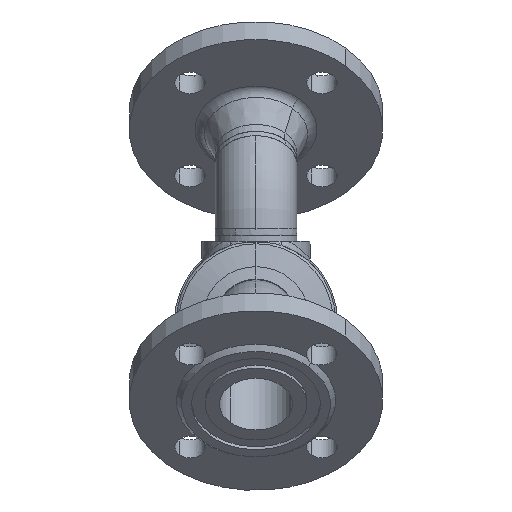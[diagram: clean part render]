
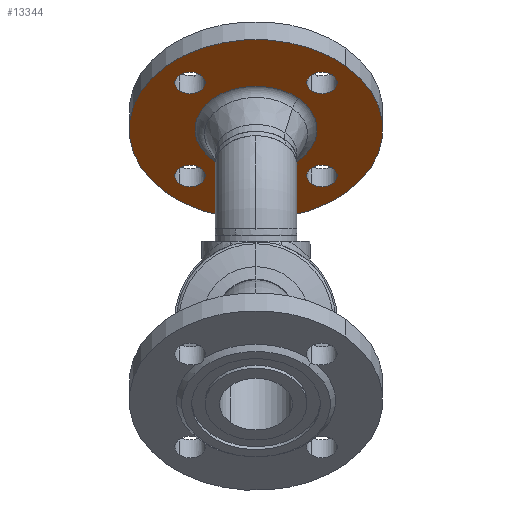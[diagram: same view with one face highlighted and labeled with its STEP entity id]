
A CAD part, front view. The second image highlights one B-rep face of the part: STEP entity #13344.
In plain terms, the highlighted planar face has unit normal (0, -0.707, -0.707) as drawn and (0, 1, 0) by its records, which use the part's own axes.
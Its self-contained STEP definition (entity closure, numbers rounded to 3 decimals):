
#16821 = VERTEX_POINT ( 'NONE', #47112 ) ;
#17226 = EDGE_LOOP ( 'NONE', ( #44420, #31367 ) ) ;
#33872 = VERTEX_POINT ( 'NONE', #48704 ) ;
#1157 = EDGE_CURVE ( 'NONE', #12079, #15108, #38039, .T. ) ;
#17882 = ORIENTED_EDGE ( 'NONE', *, *, #40357, .F. ) ;
#50857 = VERTEX_POINT ( 'NONE', #24444 ) ;
#18336 = ORIENTED_EDGE ( 'NONE', *, *, #1157, .F. ) ;
#51460 = EDGE_CURVE ( 'NONE', #9504, #50857, #24851, .T. ) ;
#51901 = CARTESIAN_POINT ( 'NONE',  ( -75., 18., 0. ) ) ;
#3008 = ORIENTED_EDGE ( 'NONE', *, *, #20402, .T. ) ;
#52301 = CIRCLE ( 'NONE', #52302, 75. ) ;
#52302 = AXIS2_PLACEMENT_3D ( 'NONE', #52303, #52304, #52305 ) ;
#52303 = CARTESIAN_POINT ( 'NONE',  ( 0., 18., 0. ) ) ;
#52304 = DIRECTION ( 'NONE',  ( 0., 1., 0. ) ) ;
#52305 = DIRECTION ( 'NONE',  ( -1., 0., 0. ) ) ;
#52518 = EDGE_LOOP ( 'NONE', ( #23249, #17882 ) ) ;
#19798 = VERTEX_POINT ( 'NONE', #51901 ) ;
#3515 = EDGE_CURVE ( 'NONE', #22842, #19798, #41238, .T. ) ;
#36450 = CARTESIAN_POINT ( 'NONE',  ( 36.091, 18., 0. ) ) ;
#53166 = ORIENTED_EDGE ( 'NONE', *, *, #12682, .F. ) ;
#20402 = EDGE_CURVE ( 'NONE', #19798, #22842, #52301, .T. ) ;
#53270 = EDGE_LOOP ( 'NONE', ( #3008, #27129 ) ) ;
#4371 = VERTEX_POINT ( 'NONE', #43567 ) ;
#4812 = ORIENTED_EDGE ( 'NONE', *, *, #47358, .F. ) ;
#21262 = CIRCLE ( 'NONE', #21263, 9. ) ;
#21263 = AXIS2_PLACEMENT_3D ( 'NONE', #21264, #21265, #21266 ) ;
#21264 = CARTESIAN_POINT ( 'NONE',  ( 0., 18., -55. ) ) ;
#21265 = DIRECTION ( 'NONE',  ( 0., 1., 0. ) ) ;
#21266 = DIRECTION ( 'NONE',  ( 0., 0., 1. ) ) ;
#37758 = ORIENTED_EDGE ( 'NONE', *, *, #51460, .F. ) ;
#38039 = CIRCLE ( 'NONE', #38090, 9. ) ;
#5317 = VERTEX_POINT ( 'NONE', #44699 ) ;
#38090 = AXIS2_PLACEMENT_3D ( 'NONE', #38091, #38092, #38093 ) ;
#38091 = CARTESIAN_POINT ( 'NONE',  ( -55., 18., 0. ) ) ;
#38092 = DIRECTION ( 'NONE',  ( 0., 1., 0. ) ) ;
#38093 = DIRECTION ( 'NONE',  ( 1., 0., 0. ) ) ;
#5920 = EDGE_CURVE ( 'NONE', #16821, #5317, #46836, .T. ) ;
#6140 = CIRCLE ( 'NONE', #6141, 9. ) ;
#6141 = AXIS2_PLACEMENT_3D ( 'NONE', #6142, #6143, #6144 ) ;
#6142 = CARTESIAN_POINT ( 'NONE',  ( 0., 18., -55. ) ) ;
#6143 = DIRECTION ( 'NONE',  ( 0., 1., 0. ) ) ;
#6144 = DIRECTION ( 'NONE',  ( 0., 0., 1. ) ) ;
#6398 = CARTESIAN_POINT ( 'NONE',  ( 9., 18., 55. ) ) ;
#22842 = VERTEX_POINT ( 'NONE', #24991 ) ;
#22892 = EDGE_CURVE ( 'NONE', #39561, #46822, #24992, .T. ) ;
#6799 = CIRCLE ( 'NONE', #6800, 36.091 ) ;
#6800 = AXIS2_PLACEMENT_3D ( 'NONE', #6801, #6802, #6803 ) ;
#39561 = VERTEX_POINT ( 'NONE', #41720 ) ;
#6801 = CARTESIAN_POINT ( 'NONE',  ( 0., 18., 0. ) ) ;
#6802 = DIRECTION ( 'NONE',  ( 0., 1., 0. ) ) ;
#6803 = DIRECTION ( 'NONE',  ( -1., 0., 0. ) ) ;
#23249 = ORIENTED_EDGE ( 'NONE', *, *, #22892, .F. ) ;
#40187 = CARTESIAN_POINT ( 'NONE',  ( -64., 18., 0. ) ) ;
#40357 = EDGE_CURVE ( 'NONE', #46822, #39561, #42383, .T. ) ;
#24444 = CARTESIAN_POINT ( 'NONE',  ( -36.091, 18., 0. ) ) ;
#24454 = EDGE_LOOP ( 'NONE', ( #18336, #53166 ) ) ;
#8239 = EDGE_CURVE ( 'NONE', #4371, #33872, #21262, .T. ) ;
#24851 = CIRCLE ( 'NONE', #24852, 36.091 ) ;
#24852 = AXIS2_PLACEMENT_3D ( 'NONE', #24853, #24854, #24855 ) ;
#24853 = CARTESIAN_POINT ( 'NONE',  ( 0., 18., 0. ) ) ;
#24854 = DIRECTION ( 'NONE',  ( 0., 1., 0. ) ) ;
#24855 = DIRECTION ( 'NONE',  ( -1., 0., 0. ) ) ;
#41238 = CIRCLE ( 'NONE', #41290, 75. ) ;
#41250 = CIRCLE ( 'NONE', #41251, 9. ) ;
#41251 = AXIS2_PLACEMENT_3D ( 'NONE', #41252, #41253, #41254 ) ;
#41252 = CARTESIAN_POINT ( 'NONE',  ( -55., 18., 0. ) ) ;
#41253 = DIRECTION ( 'NONE',  ( 0., 1., 0. ) ) ;
#41254 = DIRECTION ( 'NONE',  ( 1., 0., 0. ) ) ;
#41290 = AXIS2_PLACEMENT_3D ( 'NONE', #41291, #41292, #41293 ) ;
#41291 = CARTESIAN_POINT ( 'NONE',  ( 0., 18., 0. ) ) ;
#41292 = DIRECTION ( 'NONE',  ( 0., 1., 0. ) ) ;
#41293 = DIRECTION ( 'NONE',  ( -1., 0., 0. ) ) ;
#24991 = CARTESIAN_POINT ( 'NONE',  ( 75., 18., 0. ) ) ;
#24992 = CIRCLE ( 'NONE', #24993, 9. ) ;
#24993 = AXIS2_PLACEMENT_3D ( 'NONE', #24994, #24995, #24996 ) ;
#24994 = CARTESIAN_POINT ( 'NONE',  ( 0., 18., 55. ) ) ;
#24995 = DIRECTION ( 'NONE',  ( 0., 1., 0. ) ) ;
#24996 = DIRECTION ( 'NONE',  ( 0., 0., -1. ) ) ;
#25008 = ORIENTED_EDGE ( 'NONE', *, *, #8239, .F. ) ;
#41720 = CARTESIAN_POINT ( 'NONE',  ( -9., 18., 55. ) ) ;
#42051 = FACE_BOUND ( 'NONE', #13190, .T. ) ;
#42052 = FACE_BOUND ( 'NONE', #24454, .T. ) ;
#42053 = FACE_BOUND ( 'NONE', #52518, .T. ) ;
#42054 = FACE_BOUND ( 'NONE', #17226, .T. ) ;
#42055 = FACE_BOUND ( 'NONE', #30705, .T. ) ;
#42056 = FACE_OUTER_BOUND ( 'NONE', #53270, .T. ) ;
#42057 = PLANE ( 'NONE',  #42058 ) ;
#42058 = AXIS2_PLACEMENT_3D ( 'NONE', #42059, #42060, #42061 ) ;
#42059 = CARTESIAN_POINT ( 'NONE',  ( 75., 18., 0. ) ) ;
#42060 = DIRECTION ( 'NONE',  ( 0., -1., 0. ) ) ;
#42061 = DIRECTION ( 'NONE',  ( 1., 0., 0. ) ) ;
#9504 = VERTEX_POINT ( 'NONE', #36450 ) ;
#42383 = CIRCLE ( 'NONE', #42384, 9. ) ;
#42384 = AXIS2_PLACEMENT_3D ( 'NONE', #42385, #42386, #42387 ) ;
#42385 = CARTESIAN_POINT ( 'NONE',  ( 0., 18., 55. ) ) ;
#42386 = DIRECTION ( 'NONE',  ( 0., 1., 0. ) ) ;
#42387 = DIRECTION ( 'NONE',  ( 0., 0., -1. ) ) ;
#43360 = EDGE_CURVE ( 'NONE', #5317, #16821, #46042, .T. ) ;
#27129 = ORIENTED_EDGE ( 'NONE', *, *, #3515, .T. ) ;
#43567 = CARTESIAN_POINT ( 'NONE',  ( 9., 18., -55. ) ) ;
#44420 = ORIENTED_EDGE ( 'NONE', *, *, #43360, .F. ) ;
#44699 = CARTESIAN_POINT ( 'NONE',  ( 46., 18., 0. ) ) ;
#12079 = VERTEX_POINT ( 'NONE', #40187 ) ;
#12682 = EDGE_CURVE ( 'NONE', #15108, #12079, #41250, .T. ) ;
#45512 = CARTESIAN_POINT ( 'NONE',  ( -46., 18., 0. ) ) ;
#13190 = EDGE_LOOP ( 'NONE', ( #29999, #25008 ) ) ;
#46042 = CIRCLE ( 'NONE', #46043, 9. ) ;
#46043 = AXIS2_PLACEMENT_3D ( 'NONE', #46044, #46045, #46046 ) ;
#46044 = CARTESIAN_POINT ( 'NONE',  ( 55., 18., 0. ) ) ;
#46045 = DIRECTION ( 'NONE',  ( 0., 1., 0. ) ) ;
#46046 = DIRECTION ( 'NONE',  ( -1., 0., 0. ) ) ;
#13344 = ADVANCED_FACE ( 'NONE', ( #42051, #42052, #42053, #42054, #42055, #42056 ), #42057, .F. ) ;
#46347 = EDGE_CURVE ( 'NONE', #33872, #4371, #6140, .T. ) ;
#29999 = ORIENTED_EDGE ( 'NONE', *, *, #46347, .F. ) ;
#46822 = VERTEX_POINT ( 'NONE', #6398 ) ;
#46836 = CIRCLE ( 'NONE', #46837, 9. ) ;
#46837 = AXIS2_PLACEMENT_3D ( 'NONE', #46838, #46839, #46840 ) ;
#46838 = CARTESIAN_POINT ( 'NONE',  ( 55., 18., 0. ) ) ;
#46839 = DIRECTION ( 'NONE',  ( 0., 1., 0. ) ) ;
#46840 = DIRECTION ( 'NONE',  ( -1., 0., 0. ) ) ;
#30705 = EDGE_LOOP ( 'NONE', ( #4812, #37758 ) ) ;
#47112 = CARTESIAN_POINT ( 'NONE',  ( 64., 18., 0. ) ) ;
#47358 = EDGE_CURVE ( 'NONE', #50857, #9504, #6799, .T. ) ;
#31367 = ORIENTED_EDGE ( 'NONE', *, *, #5920, .F. ) ;
#15108 = VERTEX_POINT ( 'NONE', #45512 ) ;
#48704 = CARTESIAN_POINT ( 'NONE',  ( -9., 18., -55. ) ) ;
